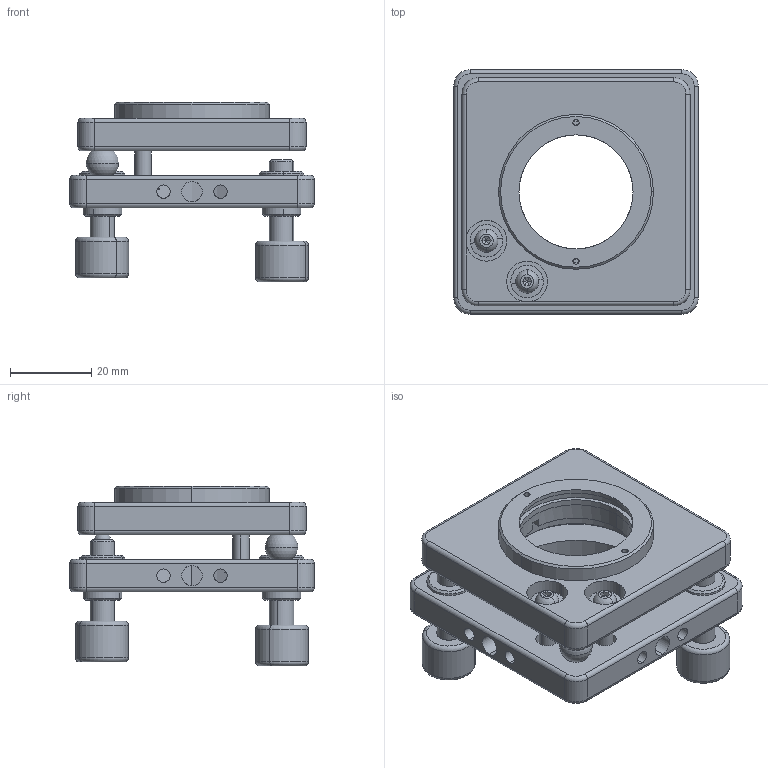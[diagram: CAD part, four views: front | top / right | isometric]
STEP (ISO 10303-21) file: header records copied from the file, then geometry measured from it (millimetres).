
FILE_DESCRIPTION (( 'STEP AP203' ), '1' );
FILE_NAME ('7MM0130謗峎覃誹噩殤.STEP', '2019-05-24T05:51:26', ( '' ), ( '' ), 'SwSTEP 2.0', 'SolidWorks 2014', '' );
FILE_SCHEMA (( 'CONFIG_CONTROL_DESIGN' ));
Length unit declared in the file: millimetre
Products named in the file (1): 7MM0130謗峎覃誹噩殤
Bounding box: 60 x 60 x 44.15 mm (x, y, z)
Surface area: 22298.7 mm2 (no closed solid volume)
Topology: 0 solids, 37 shells, 282 faces, 700 edges, 441 vertices
Faces by surface type: cylinder 114, plane 92, cone 40, torus 24, sphere 12
Entity records: 8792 total; most frequent: CARTESIAN_POINT 1884, DIRECTION 1599, ORIENTED_EDGE 1210, EDGE_CURVE 686, AXIS2_PLACEMENT_3D 650, VERTEX_POINT 435, CIRCLE 367, EDGE_LOOP 333
